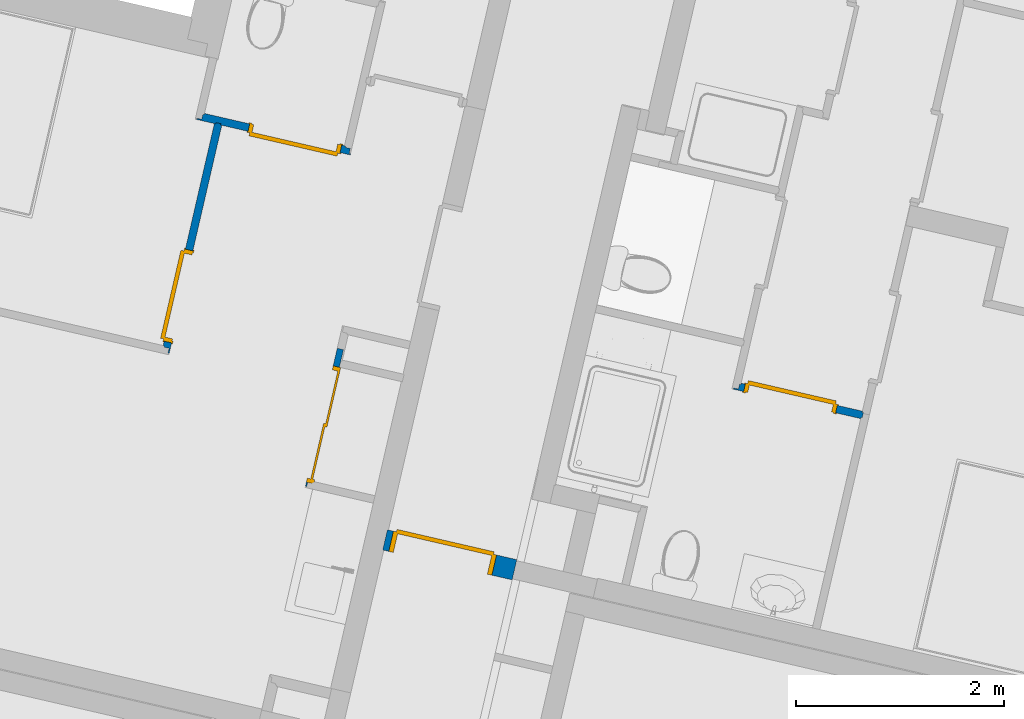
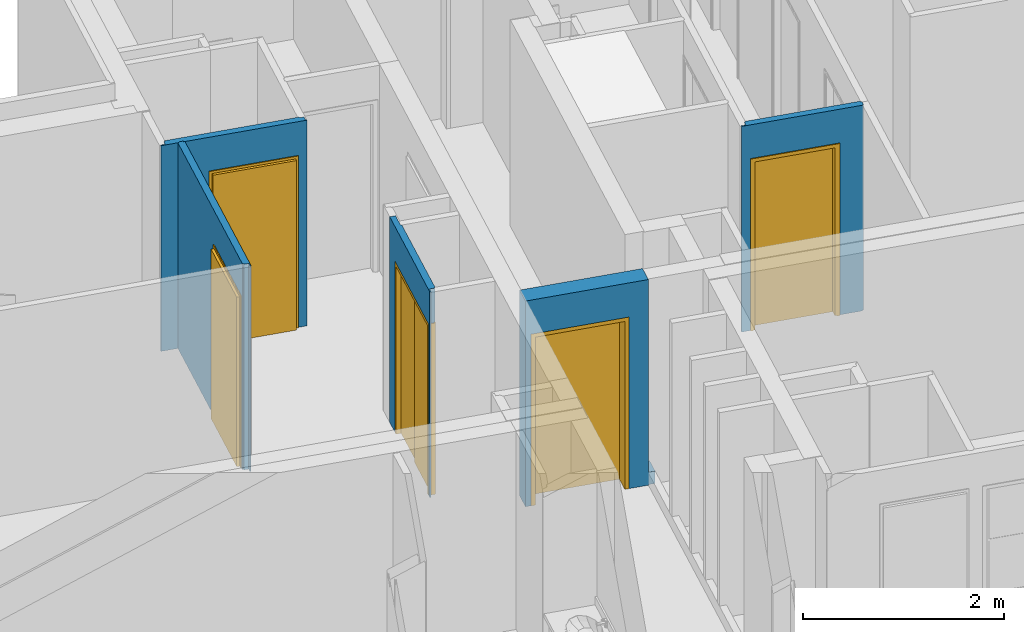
# One storey, part 26 of 91: 5 doors, 5 walls, 5 openings.
"""IFC2X3 building model written with IfcOpenShell, lengths in metres."""

from ifc_helpers import new_model, entity, si_unit, converted_unit, derived_unit, money_unit, direction, frame, origin_with_axes, place, context, subcontext, project, spatial, faceted_brep, source, transform, mapped, material, material_list, type_object, element, fill, save


model = new_model("IFC2X3")

# Units and contexts
model_context = context("Model", 3, precision=1e-05, world=origin_with_axes(), true_north=direction((0.0, 1.0)))
body_context = subcontext(model_context, "Body", "Model", "MODEL_VIEW")
ifc_project = project(units=[si_unit("LENGTHUNIT", "METRE"), si_unit("AREAUNIT", "SQUARE_METRE"), si_unit("VOLUMEUNIT", "CUBIC_METRE"), converted_unit("PLANEANGLEUNIT", "DEGREE", entity("IfcPlaneAngleMeasure", 0.0174532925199), si_unit("PLANEANGLEUNIT", "RADIAN"), dimensions=[0, 0, 0, 0, 0, 0, 0]), si_unit("SOLIDANGLEUNIT", "STERADIAN"), money_unit("EUR"), converted_unit("TIMEUNIT", "Year", entity("IfcTimeMeasure", 31556926.0), si_unit("TIMEUNIT", "SECOND"), dimensions=[0, 0, 1, 0, 0, 0, 0]), si_unit("MASSUNIT", "GRAM", prefix="KILO"), si_unit("THERMODYNAMICTEMPERATUREUNIT", "DEGREE_CELSIUS"), si_unit("LUMINOUSINTENSITYUNIT", "LUMEN"), si_unit("ENERGYUNIT", "JOULE", prefix="MEGA"), derived_unit("THERMALCONDUCTANCEUNIT", [(si_unit("POWERUNIT", "WATT"), 1), (si_unit("LENGTHUNIT", "METRE"), -1), (si_unit("THERMODYNAMICTEMPERATUREUNIT", "KELVIN"), -1)]), derived_unit("SPECIFICHEATCAPACITYUNIT", [(si_unit("ENERGYUNIT", "JOULE"), 1), (si_unit("MASSUNIT", "GRAM", prefix="KILO"), -1), (si_unit("THERMODYNAMICTEMPERATUREUNIT", "KELVIN"), -1)]), derived_unit("MASSDENSITYUNIT", [(si_unit("MASSUNIT", "GRAM", prefix="KILO"), 1), (si_unit("VOLUMEUNIT", "CUBIC_METRE"), -1)])], contexts=[model_context])

# Site, building, storey
site_placement = place(None, origin_with_axes())
site = spatial("IfcSite", under=ifc_project, at=site_placement, Name="Site", CompositionType="ELEMENT")
building_placement = place(site_placement, origin_with_axes())
building = spatial("IfcBuilding", under=site, at=building_placement, Name="Bâtiment", CompositionType="ELEMENT")
storey_placement = place(building_placement, frame((0.0, 0.0, 5.44), z_axis=(0.0, 0.0, 1.0), x_axis=(1.0, 0.0, 0.0)))
storey = spatial("IfcBuildingStorey", under=building, at=storey_placement, Name="R+2", CompositionType="ELEMENT", Elevation=5.44)

# Wall, opening, door
ifc_material_1 = material(Name="Finition int - Plaque de plâtre")
ifc_material_2 = material(Name="Isolation - Laine de roche")
ifc_material_list_1 = material_list([ifc_material_1, ifc_material_2, ifc_material_1])
wall_type_1 = type_object("IfcWallType", Name="3 - Cloison 72mm Placostil 74", PredefinedType="USERDEFINED")
wall_1_placement = place(storey_placement, frame((-11.5279039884, 8.48845740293, 0.0), z_axis=(0.0, 0.0, 1.0), x_axis=(0.97438734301, -0.224876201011, 0.0)))
wall_1 = element("IfcWall", 1, at=wall_1_placement, inside=storey, type_object=wall_type_1, material=ifc_material_list_1, Name="Cloison Placostil 72/48", ObjectType="PARTITIONING", context=body_context, shape_type="Brep", body=[
    faceted_brep([(0.521853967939, 0.074, 2.08), (0.521853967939, 0.074, 0.0), (0.0739999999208, 0.074, 0.0), (0.0739999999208, 0.074, 2.5), (1.47199999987, 0.074, 2.5), (1.47199999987, 0.074, 0.0), (1.43185396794, 0.074, 0.0), (1.43185396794, 0.074, 2.08), (0.521853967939, 0.061, 2.08), (0.521853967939, 0.061, 0.0), (0.0739999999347, 0.061, 0.0), (0.0739999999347, 0.061, 2.5), (1.47199999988, 0.061, 2.5), (1.47199999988, 0.061, 0.0), (1.43185396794, 0.061, 0.0), (1.43185396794, 0.061, 2.08)], [[[0, 1, 2, 3, 4, 5, 6, 7]], [[1, 0, 8, 9]], [[1, 9, 10, 2]], [[2, 10, 11, 3]], [[4, 3, 11, 12]], [[5, 4, 12, 13]], [[14, 6, 5, 13]], [[7, 6, 14, 15]], [[0, 7, 15, 8]], [[15, 14, 13, 12, 11, 10, 9, 8]]]),
    faceted_brep([(0.521853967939, 0.061, 2.08), (0.521853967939, 0.061, 0.0), (0.0609999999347, 0.061, 0.0), (0.0609999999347, 0.061, 2.5), (1.51999999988, 0.061, 2.5), (1.51999999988, 0.061, 0.0), (1.43185396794, 0.061, 0.0), (1.43185396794, 0.061, 2.08), (0.521853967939, 0.013, 2.08), (0.521853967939, 0.013, 0.0), (0.0609999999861, 0.013, 0.0), (0.0609999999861, 0.013, 2.5), (1.5199999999, 0.013, 2.5), (1.5199999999, 0.013, 0.0), (1.43185396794, 0.013, 0.0), (1.43185396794, 0.013, 2.08)], [[[0, 1, 2, 3, 4, 5, 6, 7]], [[1, 0, 8, 9]], [[1, 9, 10, 2]], [[2, 10, 11, 3]], [[4, 3, 11, 12]], [[5, 4, 12, 13]], [[14, 6, 5, 13]], [[7, 6, 14, 15]], [[0, 7, 15, 8]], [[15, 14, 13, 12, 11, 10, 9, 8]]]),
    faceted_brep([(0.202000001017, 0.013, 0.0), (0.202000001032, 0.0, 0.0), (0.013, 0.0, 0.0), (0.0129999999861, 0.013, 0.0), (0.202000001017, 0.013, 2.5), (0.202000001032, 0.0, 2.5), (0.013, 0.0, 2.5), (0.0129999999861, 0.013, 2.5)], [[[0, 1, 2, 3]], [[1, 0, 4, 5]], [[1, 5, 6, 2]], [[7, 3, 2, 6]], [[4, 0, 3, 7]], [[5, 4, 7, 6]]]),
    faceted_brep([(0.521853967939, 0.013, 2.08), (0.521853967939, 0.013, 0.0), (0.250000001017, 0.013, 0.0), (0.250000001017, 0.013, 2.5), (1.5329999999, 0.013, 2.5), (1.5329999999, 0.013, 0.0), (1.43185396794, 0.013, 0.0), (1.43185396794, 0.013, 2.08), (0.521853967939, 0.0, 2.08), (0.521853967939, 0.0, 0.0), (0.250000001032, 0.0, 0.0), (0.250000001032, 0.0, 2.5), (1.53299999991, 0.0, 2.5), (1.53299999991, 0.0, 0.0), (1.43185396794, 0.0, 0.0), (1.43185396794, 0.0, 2.08)], [[[0, 1, 2, 3, 4, 5, 6, 7]], [[1, 0, 8, 9]], [[1, 9, 10, 2]], [[2, 10, 11, 3]], [[4, 3, 11, 12]], [[5, 4, 12, 13]], [[14, 6, 5, 13]], [[7, 6, 14, 15]], [[0, 7, 15, 8]], [[15, 14, 13, 12, 11, 10, 9, 8]]]),
])
opening_1_placement = place(wall_1_placement, frame((0.976853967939, 0.0, 0.0), z_axis=(0.0, 0.0, 1.0), x_axis=(1.0, 0.0, 0.0)))
opening_1 = element("IfcOpeningElement", 2, at=opening_1_placement, cuts=wall_1, Name="Porte 83x204 bois alvéolaire", context=body_context, shape_type="Brep", body=[
    faceted_brep([(-0.455, 0.074, 0.0), (0.455, 0.074, 0.0), (0.455, -0.074, 0.0), (-0.455, -0.074, 0.0), (-0.455, 0.074, 2.08), (0.455, 0.074, 2.08), (0.455, -0.074, 2.08), (-0.455, -0.074, 2.08)], [[[0, 1, 2, 3]], [[0, 4, 5, 1]], [[1, 5, 6, 2]], [[3, 2, 6, 7]], [[4, 0, 3, 7]], [[5, 4, 7, 6]]]),
])
door_style_1 = type_object("IfcDoorStyle", Name="Porte int générique 2019", ConstructionType="NOTDEFINED", OperationType="SINGLE_SWING_RIGHT", ParameterTakesPrecedence=False, Sizeable=False)
shared_shape_1 = source(origin_with_axes(), body_context, "Body", "Brep", [
    faceted_brep([(0.455, 0.0, 0.0), (0.415, 0.0, 0.0), (0.415, 0.0, 2.04), (-0.415, 0.0, 2.04), (-0.415, 0.0, 0.0), (-0.455, 0.0, 0.0), (-0.455, 0.0, 2.08), (0.455, 0.0, 2.08), (0.455, -0.074, 0.0), (0.415, -0.074, 0.0), (0.415, -0.074, 2.04), (-0.415, -0.074, 2.04), (-0.415, -0.074, 0.0), (-0.455, -0.074, 0.0), (-0.455, -0.074, 2.08), (0.455, -0.074, 2.08)], [[[0, 1, 2, 3, 4, 5, 6, 7]], [[0, 8, 9, 1]], [[1, 9, 10, 2]], [[2, 10, 11, 3]], [[3, 11, 12, 4]], [[5, 4, 12, 13]], [[14, 6, 5, 13]], [[15, 7, 6, 14]], [[8, 0, 7, 15]], [[9, 8, 15, 14, 13, 12, 11, 10]]]),
    faceted_brep([(0.465, 0.0, 0.0), (0.465, 0.01, 0.0), (0.465, 0.01, 2.09), (0.465, 0.0, 2.09), (0.435, 0.0, 0.0), (0.435, 0.01, 0.0), (0.435, 0.01, 2.06), (-0.435, 0.01, 2.06), (-0.435, 0.01, 0.0), (-0.465, 0.01, 0.0), (-0.465, 0.01, 2.09), (-0.465, 0.0, 2.09), (-0.465, 0.0, 0.0), (-0.435, 0.0, 0.0), (-0.435, 0.0, 2.06), (0.435, 0.0, 2.06)], [[[0, 1, 2, 3]], [[0, 4, 5, 1]], [[1, 5, 6, 7, 8, 9, 10, 2]], [[3, 2, 10, 11]], [[4, 0, 3, 11, 12, 13, 14, 15]], [[5, 4, 15, 6]], [[6, 15, 14, 7]], [[7, 14, 13, 8]], [[12, 9, 8, 13]], [[11, 10, 9, 12]]]),
    faceted_brep([(0.465, -0.084, 0.0), (0.465, -0.074, 0.0), (0.465, -0.074, 2.09), (0.465, -0.084, 2.09), (0.435, -0.084, 0.0), (0.435, -0.074, 0.0), (0.435, -0.074, 2.06), (-0.435, -0.074, 2.06), (-0.435, -0.074, 0.0), (-0.465, -0.074, 0.0), (-0.465, -0.074, 2.09), (-0.465, -0.084, 2.09), (-0.465, -0.084, 0.0), (-0.435, -0.084, 0.0), (-0.435, -0.084, 2.06), (0.435, -0.084, 2.06)], [[[0, 1, 2, 3]], [[0, 4, 5, 1]], [[1, 5, 6, 7, 8, 9, 10, 2]], [[3, 2, 10, 11]], [[4, 0, 3, 11, 12, 13, 14, 15]], [[5, 4, 15, 6]], [[6, 15, 14, 7]], [[7, 14, 13, 8]], [[12, 9, 8, 13]], [[11, 10, 9, 12]]]),
    faceted_brep([(0.435, 0.04, 0.0), (0.435, 0.0, 0.0), (-0.435, 0.0, 0.0), (-0.435, 0.04, 0.0), (0.435, 0.04, 2.06), (0.435, 0.0, 2.06), (-0.435, 0.0, 2.06), (-0.435, 0.04, 2.06)], [[[0, 1, 2, 3]], [[4, 5, 1, 0]], [[1, 5, 6, 2]], [[3, 2, 6, 7]], [[0, 3, 7, 4]], [[7, 6, 5, 4]]]),
])
door_1_placement = place(opening_1_placement, frame((0.415, 0.0, 0.0), z_axis=(0.0, 0.0, 1.0), x_axis=(-1.0, 0.0, 0.0)))
door_1 = element("IfcDoor", 3, at=door_1_placement, inside=storey, type_object=door_style_1, Name="Porte 83x204 bois alvéolaire", ObjectType="DOOR", OverallHeight=2.04, OverallWidth=0.83, context=body_context, shape_type="MappedRepresentation", body=[
    mapped(shared_shape_1, transform((0.415, 0.0, 0.0))),
])
fill(opening_1, door_1)

wall_2_placement = place(storey_placement, frame((-10.1981851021, 6.11093090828, 0.0), z_axis=(0.0, 0.0, 1.0), x_axis=(-0.22487619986, -0.974387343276, 0.0)))
wall_2 = element("IfcWall", 4, at=wall_2_placement, inside=storey, type_object=wall_type_1, material=ifc_material_list_1, Name="Cloison Placostil 72/48", ObjectType="PARTITIONING", context=body_context, shape_type="Brep", body=[
    faceted_brep([(1.12896282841, 0.0739999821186, 2.08), (-2.88858714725e-10, 0.0739999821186, 2.08), (-2.88859602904e-10, 0.074, 2.5), (1.12896281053, 0.074, 2.5), (-2.88858714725e-10, 0.061, 2.08), (1.12896281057, 0.061, 2.08), (-2.38113972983e-10, 0.061, 2.5), (1.12896281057, 0.061, 2.5)], [[[0, 1, 2, 3]], [[4, 1, 0, 5]], [[1, 4, 6, 2]], [[7, 3, 2, 6]], [[5, 0, 3, 7]], [[4, 5, 7, 6]]]),
    faceted_brep([(-2.88858270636e-10, 0.061, 2.08), (-2.88858270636e-10, 0.0610000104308, 0.0), (-0.174000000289, 0.061, 0.0), (-0.174000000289, 0.061, 2.5), (1.14196281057, 0.061, 2.5), (1.14196281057, 0.061, 2.08), (-2.88858270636e-10, 0.013, 2.08), (-2.88857826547e-10, 0.0130000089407, 0.0), (-0.174000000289, 0.013, 0.0), (-0.174000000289, 0.013, 2.5), (1.14196281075, 0.013, 2.5), (1.14196281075, 0.013, 2.08)], [[[0, 1, 2, 3, 4, 5]], [[1, 0, 6, 7]], [[1, 7, 8, 2]], [[2, 8, 9, 3]], [[10, 4, 3, 9]], [[11, 5, 4, 10]], [[0, 5, 11, 6]], [[6, 11, 10, 9, 8, 7]]]),
    faceted_brep([(1.14999999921, 0.0130000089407, 0.0), (1.14999999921, 0.013, 2.08), (-2.88858270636e-10, 0.013, 2.08), (-2.88857826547e-10, 0.0130000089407, 0.0), (-0.174000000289, 0.013, 0.0), (-0.174000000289, 0.013, 2.5), (1.18996281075, 0.013, 2.5), (1.18996281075, 0.013, 0.0), (1.14999999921, 0.0, 0.0), (1.14999999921, 0.0, 2.08), (-2.88858270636e-10, 0.0, 2.08), (-2.88858270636e-10, 0.0, 0.0), (-0.174000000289, 0.0, 0.0), (-0.174000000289, 0.0, 2.5), (1.1899628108, 0.0, 2.5), (1.1899628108, 0.0, 0.0)], [[[0, 1, 2, 3, 4, 5, 6, 7]], [[1, 0, 8, 9]], [[2, 1, 9, 10]], [[3, 2, 10, 11]], [[3, 11, 12, 4]], [[4, 12, 13, 5]], [[14, 6, 5, 13]], [[7, 6, 14, 15]], [[8, 0, 7, 15]], [[9, 8, 15, 14, 13, 12, 11, 10]]]),
])
opening_2_placement = place(wall_2_placement, frame((0.574999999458, 0.0, 0.0), z_axis=(0.0, 0.0, 1.0), x_axis=(1.0, 0.0, 0.0)))
opening_2 = element("IfcOpeningElement", 5, at=opening_2_placement, cuts=wall_2, Name="Por-002", context=body_context, shape_type="Brep", body=[
    faceted_brep([(-0.574999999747, 0.074, 0.0), (0.574999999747, 0.074, 0.0), (0.574999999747, -0.074, 0.0), (-0.574999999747, -0.074, 0.0), (-0.574999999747, 0.074, 2.08), (0.574999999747, 0.074, 2.08), (0.574999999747, -0.074, 2.08), (-0.574999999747, -0.074, 2.08)], [[[0, 1, 2, 3]], [[0, 4, 5, 1]], [[1, 5, 6, 2]], [[3, 2, 6, 7]], [[4, 0, 3, 7]], [[5, 4, 7, 6]]]),
])
door_style_2 = type_object("IfcDoorStyle", Name="Porte int générique 2019", ConstructionType="NOTDEFINED", OperationType="USERDEFINED", ParameterTakesPrecedence=False, Sizeable=False)
shared_shape_2 = source(origin_with_axes(), body_context, "Body", "Brep", [
    faceted_brep([(-0.574999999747, 0.0, 0.0), (-0.574999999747, 0.0, 2.08), (0.574999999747, 0.0, 2.08), (0.574999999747, 0.0, 0.0), (0.534999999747, 0.0, 0.0), (0.534999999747, 0.0, 2.04), (-0.534999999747, 0.0, 2.04), (-0.534999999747, 0.0, 0.0), (-0.574999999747, -0.074, 0.0), (-0.574999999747, -0.074, 2.08), (0.574999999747, -0.074, 2.08), (0.574999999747, -0.074, 0.0), (0.534999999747, -0.074, 0.0), (0.534999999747, -0.074, 2.04), (-0.534999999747, -0.074, 2.04), (-0.534999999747, -0.074, 0.0)], [[[0, 1, 2, 3, 4, 5, 6, 7]], [[8, 9, 1, 0]], [[9, 10, 2, 1]], [[10, 11, 3, 2]], [[3, 11, 12, 4]], [[5, 4, 12, 13]], [[6, 5, 13, 14]], [[7, 6, 14, 15]], [[0, 7, 15, 8]], [[15, 14, 13, 12, 11, 10, 9, 8]]]),
    faceted_brep([(-0.534999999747, 0.0, 0.0), (0.015, 0.0, 0.0), (0.015, -0.02, 0.0), (-0.534999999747, -0.02, 0.0), (-0.534999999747, 0.0, 2.04), (0.015, 0.0, 2.04), (0.015, -0.02, 2.04), (-0.534999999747, -0.02, 2.04)], [[[0, 1, 2, 3]], [[0, 4, 5, 1]], [[1, 5, 6, 2]], [[3, 2, 6, 7]], [[4, 0, 3, 7]], [[5, 4, 7, 6]]]),
    faceted_brep([(-0.015, -0.02, 0.0), (0.534999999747, -0.02, 0.0), (0.534999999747, -0.04, 0.0), (-0.015, -0.04, 0.0), (-0.015, -0.02, 2.04), (0.534999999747, -0.02, 2.04), (0.534999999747, -0.04, 2.04), (-0.015, -0.04, 2.04)], [[[0, 1, 2, 3]], [[0, 4, 5, 1]], [[1, 5, 6, 2]], [[3, 2, 6, 7]], [[4, 0, 3, 7]], [[5, 4, 7, 6]]]),
])
door_2_placement = place(opening_2_placement, frame((-0.534999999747, 0.0, 0.0), z_axis=(0.0, 0.0, 1.0), x_axis=(1.0, 0.0, 0.0)))
door_2 = element("IfcDoor", 6, at=door_2_placement, inside=storey, type_object=door_style_2, Name="Por-002", ObjectType="DOOR", OverallHeight=2.04, OverallWidth=1.07, context=body_context, shape_type="MappedRepresentation", body=[
    mapped(shared_shape_2, transform((0.534999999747, 0.074, 0.0))),
])
fill(opening_2, door_2)

wall_3_placement = place(storey_placement, frame((-5.09756622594, 5.67452607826, 0.0), z_axis=(0.0, 0.0, 1.0), x_axis=(-0.974387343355, 0.224876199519, 0.0)))
wall_3 = element("IfcWall", 7, at=wall_3_placement, inside=storey, type_object=wall_type_1, material=ifc_material_list_1, Name="Cloison Placostil 72/48", ObjectType="PARTITIONING", context=body_context, shape_type="Brep", body=[
    faceted_brep([(1.15803568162, 0.061, 2.08), (1.15803568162, 0.061, 0.0), (1.26072502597, 0.061, 0.0), (1.26072502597, 0.061, 2.5), (0.0, 0.061, 2.5), (0.0, 0.061, 0.0), (0.248035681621, 0.061, 0.0), (0.248035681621, 0.061, 2.08), (1.15803568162, 0.074, 2.08), (1.15803568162, 0.074, 0.0), (1.26072502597, 0.074, 0.0), (1.26072502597, 0.074, 2.5), (0.0, 0.074, 2.5), (0.0, 0.074, 0.0), (0.248035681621, 0.074, 0.0), (0.248035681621, 0.074, 2.08)], [[[0, 1, 2, 3, 4, 5, 6, 7]], [[1, 0, 8, 9]], [[1, 9, 10, 2]], [[10, 11, 3, 2]], [[11, 12, 4, 3]], [[13, 5, 4, 12]], [[14, 6, 5, 13]], [[7, 6, 14, 15]], [[0, 7, 15, 8]], [[15, 14, 13, 12, 11, 10, 9, 8]]]),
    faceted_brep([(1.15803568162, 0.013, 2.08), (1.15803568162, 0.013, 0.0), (1.21272502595, 0.013, 0.0), (1.21272502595, 0.013, 2.5), (-0.0129999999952, 0.013, 2.5), (-0.0129999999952, 0.013, 0.0), (0.248035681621, 0.013, 0.0), (0.248035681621, 0.013, 2.08), (1.15803568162, 0.061, 2.08), (1.15803568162, 0.061, 0.0), (1.21272502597, 0.061, 0.0), (1.21272502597, 0.061, 2.5), (-0.012999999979, 0.061, 2.5), (-0.012999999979, 0.061, 0.0), (0.248035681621, 0.061, 0.0), (0.248035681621, 0.061, 2.08)], [[[0, 1, 2, 3, 4, 5, 6, 7]], [[1, 0, 8, 9]], [[1, 9, 10, 2]], [[10, 11, 3, 2]], [[11, 12, 4, 3]], [[13, 5, 4, 12]], [[14, 6, 5, 13]], [[7, 6, 14, 15]], [[0, 7, 15, 8]], [[15, 14, 13, 12, 11, 10, 9, 8]]]),
    faceted_brep([(1.15803568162, 0.0, 2.08), (1.15803568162, 0.0, 0.0), (1.19972502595, 0.0, 0.0), (1.19972502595, 0.0, 2.5), (0.0, 0.0, 2.5), (0.0, 0.0, 0.0), (0.248035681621, 0.0, 0.0), (0.248035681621, 0.0, 2.08), (1.15803568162, 0.013, 2.08), (1.15803568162, 0.013, 0.0), (1.19972502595, 0.013, 0.0), (1.19972502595, 0.013, 2.5), (0.0, 0.013, 2.5), (0.0, 0.013, 0.0), (0.248035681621, 0.013, 0.0), (0.248035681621, 0.013, 2.08)], [[[0, 1, 2, 3, 4, 5, 6, 7]], [[1, 0, 8, 9]], [[1, 9, 10, 2]], [[10, 11, 3, 2]], [[11, 12, 4, 3]], [[13, 5, 4, 12]], [[14, 6, 5, 13]], [[7, 6, 14, 15]], [[0, 7, 15, 8]], [[15, 14, 13, 12, 11, 10, 9, 8]]]),
])
opening_3_placement = place(wall_3_placement, frame((0.703035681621, 0.0, 0.0), z_axis=(0.0, 0.0, 1.0), x_axis=(1.0, 0.0, 0.0)))
opening_3 = element("IfcOpeningElement", 8, at=opening_3_placement, cuts=wall_3, Name="Porte 83x204 bois alvéolaire", context=body_context, shape_type="Brep", body=[
    faceted_brep([(0.455, -0.074, 0.0), (-0.455, -0.074, 0.0), (-0.455, 0.074, 0.0), (0.455, 0.074, 0.0), (0.455, -0.074, 2.08), (-0.455, -0.074, 2.08), (-0.455, 0.074, 2.08), (0.455, 0.074, 2.08)], [[[0, 1, 2, 3]], [[0, 4, 5, 1]], [[1, 5, 6, 2]], [[3, 2, 6, 7]], [[4, 0, 3, 7]], [[5, 4, 7, 6]]]),
])
door_style_3 = type_object("IfcDoorStyle", Name="Porte int générique 2019", ConstructionType="NOTDEFINED", OperationType="SINGLE_SWING_LEFT", ParameterTakesPrecedence=False, Sizeable=False)
shared_shape_3 = source(origin_with_axes(), body_context, "Body", "Brep", [
    faceted_brep([(-0.455, 0.0, 0.0), (-0.455, 0.0, 2.08), (0.455, 0.0, 2.08), (0.455, 0.0, 0.0), (0.415, 0.0, 0.0), (0.415, 0.0, 2.04), (-0.415, 0.0, 2.04), (-0.415, 0.0, 0.0), (-0.455, -0.074, 0.0), (-0.455, -0.074, 2.08), (0.455, -0.074, 2.08), (0.455, -0.074, 0.0), (0.415, -0.074, 0.0), (0.415, -0.074, 2.04), (-0.415, -0.074, 2.04), (-0.415, -0.074, 0.0)], [[[0, 1, 2, 3, 4, 5, 6, 7]], [[8, 9, 1, 0]], [[9, 10, 2, 1]], [[10, 11, 3, 2]], [[3, 11, 12, 4]], [[5, 4, 12, 13]], [[6, 5, 13, 14]], [[7, 6, 14, 15]], [[0, 7, 15, 8]], [[15, 14, 13, 12, 11, 10, 9, 8]]]),
    faceted_brep([(-0.465, 0.0, 0.0), (-0.465, 0.0, 2.09), (-0.465, 0.01, 2.09), (-0.465, 0.01, 0.0), (-0.435, 0.0, 0.0), (-0.435, 0.0, 2.06), (0.435, 0.0, 2.06), (0.435, 0.0, 0.0), (0.465, 0.0, 0.0), (0.465, 0.0, 2.09), (0.465, 0.01, 2.09), (0.465, 0.01, 0.0), (0.435, 0.01, 0.0), (0.435, 0.01, 2.06), (-0.435, 0.01, 2.06), (-0.435, 0.01, 0.0)], [[[0, 1, 2, 3]], [[4, 5, 6, 7, 8, 9, 1, 0]], [[1, 9, 10, 2]], [[3, 2, 10, 11, 12, 13, 14, 15]], [[0, 3, 15, 4]], [[15, 14, 5, 4]], [[14, 13, 6, 5]], [[13, 12, 7, 6]], [[8, 7, 12, 11]], [[9, 8, 11, 10]]]),
    faceted_brep([(-0.465, -0.084, 0.0), (-0.465, -0.084, 2.09), (-0.465, -0.074, 2.09), (-0.465, -0.074, 0.0), (-0.435, -0.084, 0.0), (-0.435, -0.084, 2.06), (0.435, -0.084, 2.06), (0.435, -0.084, 0.0), (0.465, -0.084, 0.0), (0.465, -0.084, 2.09), (0.465, -0.074, 2.09), (0.465, -0.074, 0.0), (0.435, -0.074, 0.0), (0.435, -0.074, 2.06), (-0.435, -0.074, 2.06), (-0.435, -0.074, 0.0)], [[[0, 1, 2, 3]], [[4, 5, 6, 7, 8, 9, 1, 0]], [[1, 9, 10, 2]], [[3, 2, 10, 11, 12, 13, 14, 15]], [[0, 3, 15, 4]], [[15, 14, 5, 4]], [[14, 13, 6, 5]], [[13, 12, 7, 6]], [[8, 7, 12, 11]], [[9, 8, 11, 10]]]),
    faceted_brep([(-0.435, 0.04, 0.0), (0.435, 0.04, 0.0), (0.435, 0.0, 0.0), (-0.435, 0.0, 0.0), (-0.435, 0.04, 2.06), (0.435, 0.04, 2.06), (0.435, 0.0, 2.06), (-0.435, 0.0, 2.06)], [[[0, 1, 2, 3]], [[0, 4, 5, 1]], [[1, 5, 6, 2]], [[3, 2, 6, 7]], [[4, 0, 3, 7]], [[5, 4, 7, 6]]]),
])
door_3_placement = place(opening_3_placement, frame((0.415, 0.0, 0.0), z_axis=(0.0, 0.0, 1.0), x_axis=(-1.0, 0.0, 0.0)))
door_3 = element("IfcDoor", 9, at=door_3_placement, inside=storey, type_object=door_style_3, Name="Porte 83x204 bois alvéolaire", ObjectType="DOOR", OverallHeight=2.04, OverallWidth=0.83, context=body_context, shape_type="MappedRepresentation", body=[
    mapped(shared_shape_3, transform((0.415, 0.0, 0.0))),
])
fill(opening_3, door_3)

wall_4_placement = place(storey_placement, frame((-11.781974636, 6.21803828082, 0.0), z_axis=(0.0, 0.0, 1.0), x_axis=(0.224876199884, 0.974387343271, 0.0)))
wall_4 = element("IfcWall", 10, at=wall_4_placement, inside=storey, type_object=wall_type_1, material=ifc_material_list_1, Name="Cloison Placostil 72/48", ObjectType="PARTITIONING", context=body_context, shape_type="Brep", body=[
    faceted_brep([(0.117208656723, 0.061, 0.0), (0.117208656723, 0.061, 2.08), (1.02720865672, 0.061, 2.08), (1.02720865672, 0.061, 0.0), (2.26940209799, 0.061, 0.0), (2.26940209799, 0.061, 2.5), (0.0739999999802, 0.061, 2.5), (0.0739999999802, 0.061, 0.0), (0.117208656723, 0.074, 0.0), (0.117208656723, 0.074, 2.08), (1.02720865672, 0.074, 2.08), (1.02720865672, 0.074, 0.0), (2.26940209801, 0.074, 0.0), (2.26940209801, 0.074, 2.5), (0.073999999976, 0.074, 2.5), (0.073999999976, 0.074, 0.0)], [[[0, 1, 2, 3, 4, 5, 6, 7]], [[1, 0, 8, 9]], [[2, 1, 9, 10]], [[3, 2, 10, 11]], [[3, 11, 12, 4]], [[12, 13, 5, 4]], [[13, 14, 6, 5]], [[15, 7, 6, 14]], [[8, 0, 7, 15]], [[9, 8, 15, 14, 13, 12, 11, 10]]]),
    faceted_brep([(0.117208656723, 0.013, 0.0), (0.117208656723, 0.013, 2.08), (1.02720865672, 0.013, 2.08), (1.02720865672, 0.013, 0.0), (2.28240209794, 0.013, 0.0), (2.28240209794, 0.013, 2.5), (0.0609999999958, 0.013, 2.5), (0.0609999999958, 0.013, 0.0), (0.117208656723, 0.061, 0.0), (0.117208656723, 0.061, 2.08), (1.02720865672, 0.061, 2.08), (1.02720865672, 0.061, 0.0), (2.28240209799, 0.061, 0.0), (2.28240209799, 0.061, 2.5), (0.0609999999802, 0.061, 2.5), (0.0609999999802, 0.061, 0.0)], [[[0, 1, 2, 3, 4, 5, 6, 7]], [[1, 0, 8, 9]], [[2, 1, 9, 10]], [[3, 2, 10, 11]], [[3, 11, 12, 4]], [[12, 13, 5, 4]], [[13, 14, 6, 5]], [[15, 7, 6, 14]], [[8, 0, 7, 15]], [[9, 8, 15, 14, 13, 12, 11, 10]]]),
    faceted_brep([(0.117208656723, 0.0, 0.0), (0.117208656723, 0.0, 2.08), (1.02720865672, 0.0, 2.08), (1.02720865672, 0.0, 0.0), (2.26940209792, 0.0, 0.0), (2.26940209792, 0.0, 2.5), (0.013, 0.0, 2.5), (0.013, 0.0, 0.0), (0.117208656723, 0.013, 0.0), (0.117208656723, 0.013, 2.08), (1.02720865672, 0.013, 2.08), (1.02720865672, 0.013, 0.0), (2.26940209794, 0.013, 0.0), (2.26940209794, 0.013, 2.5), (0.0129999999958, 0.013, 2.5), (0.0129999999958, 0.013, 0.0)], [[[0, 1, 2, 3, 4, 5, 6, 7]], [[1, 0, 8, 9]], [[2, 1, 9, 10]], [[3, 2, 10, 11]], [[3, 11, 12, 4]], [[12, 13, 5, 4]], [[13, 14, 6, 5]], [[15, 7, 6, 14]], [[8, 0, 7, 15]], [[9, 8, 15, 14, 13, 12, 11, 10]]]),
])
opening_4_placement = place(wall_4_placement, frame((0.572208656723, 0.0, 0.0), z_axis=(0.0, 0.0, 1.0), x_axis=(1.0, 0.0, 0.0)))
opening_4 = element("IfcOpeningElement", 11, at=opening_4_placement, cuts=wall_4, Name="Porte 83x204 bois alvéolaire", context=body_context, shape_type="Brep", body=[
    faceted_brep([(-0.455, 0.074, 0.0), (0.455, 0.074, 0.0), (0.455, -0.074, 0.0), (-0.455, -0.074, 0.0), (-0.455, 0.074, 2.08), (0.455, 0.074, 2.08), (0.455, -0.074, 2.08), (-0.455, -0.074, 2.08)], [[[0, 1, 2, 3]], [[0, 4, 5, 1]], [[1, 5, 6, 2]], [[3, 2, 6, 7]], [[4, 0, 3, 7]], [[5, 4, 7, 6]]]),
])
shared_shape_4 = source(origin_with_axes(), body_context, "Body", "Brep", [
    faceted_brep([(-0.455, -0.006, 0.0), (-0.455, -0.006, 2.08), (0.455, -0.006, 2.08), (0.455, -0.006, 0.0), (0.415, -0.006, 0.0), (0.415, -0.006, 2.04), (-0.415, -0.006, 2.04), (-0.415, -0.006, 0.0), (-0.455, -0.08, 0.0), (-0.455, -0.08, 2.08), (0.455, -0.08, 2.08), (0.455, -0.08, 0.0), (0.415, -0.08, 0.0), (0.415, -0.08, 2.04), (-0.415, -0.08, 2.04), (-0.415, -0.08, 0.0)], [[[0, 1, 2, 3, 4, 5, 6, 7]], [[8, 9, 1, 0]], [[9, 10, 2, 1]], [[10, 11, 3, 2]], [[3, 11, 12, 4]], [[5, 4, 12, 13]], [[6, 5, 13, 14]], [[7, 6, 14, 15]], [[0, 7, 15, 8]], [[15, 14, 13, 12, 11, 10, 9, 8]]]),
    faceted_brep([(-0.465, -0.006, 0.0), (-0.465, -0.006, 2.09), (-0.465, 0.004, 2.09), (-0.465, 0.004, 0.0), (-0.435, -0.006, 0.0), (-0.435, -0.006, 2.06), (0.435, -0.006, 2.06), (0.435, -0.006, 0.0), (0.465, -0.006, 0.0), (0.465, -0.006, 2.09), (0.465, 0.004, 2.09), (0.465, 0.004, 0.0), (0.435, 0.004, 0.0), (0.435, 0.004, 2.06), (-0.435, 0.004, 2.06), (-0.435, 0.004, 0.0)], [[[0, 1, 2, 3]], [[4, 5, 6, 7, 8, 9, 1, 0]], [[1, 9, 10, 2]], [[3, 2, 10, 11, 12, 13, 14, 15]], [[0, 3, 15, 4]], [[15, 14, 5, 4]], [[14, 13, 6, 5]], [[13, 12, 7, 6]], [[8, 7, 12, 11]], [[9, 8, 11, 10]]]),
    faceted_brep([(-0.465, -0.09, 0.0), (-0.465, -0.09, 2.09), (-0.465, -0.08, 2.09), (-0.465, -0.08, 0.0), (-0.435, -0.09, 0.0), (-0.435, -0.09, 2.06), (0.435, -0.09, 2.06), (0.435, -0.09, 0.0), (0.465, -0.09, 0.0), (0.465, -0.09, 2.09), (0.465, -0.08, 2.09), (0.465, -0.08, 0.0), (0.435, -0.08, 0.0), (0.435, -0.08, 2.06), (-0.435, -0.08, 2.06), (-0.435, -0.08, 0.0)], [[[0, 1, 2, 3]], [[4, 5, 6, 7, 8, 9, 1, 0]], [[1, 9, 10, 2]], [[3, 2, 10, 11, 12, 13, 14, 15]], [[0, 3, 15, 4]], [[15, 14, 5, 4]], [[14, 13, 6, 5]], [[13, 12, 7, 6]], [[8, 7, 12, 11]], [[9, 8, 11, 10]]]),
    faceted_brep([(-0.435, 0.034, 0.0), (0.435, 0.034, 0.0), (0.435, -0.006, 0.0), (-0.435, -0.006, 0.0), (-0.435, 0.034, 2.06), (0.435, 0.034, 2.06), (0.435, -0.006, 2.06), (-0.435, -0.006, 2.06)], [[[0, 1, 2, 3]], [[0, 4, 5, 1]], [[1, 5, 6, 2]], [[3, 2, 6, 7]], [[4, 0, 3, 7]], [[5, 4, 7, 6]]]),
])
door_4_placement = place(opening_4_placement, frame((-0.415, 0.0, 0.0), z_axis=(0.0, 0.0, 1.0), x_axis=(1.0, 0.0, 0.0)))
door_4 = element("IfcDoor", 12, at=door_4_placement, inside=storey, type_object=door_style_3, Name="Porte 83x204 bois alvéolaire", ObjectType="DOOR", OverallHeight=2.04, OverallWidth=0.83, context=body_context, shape_type="MappedRepresentation", body=[
    mapped(shared_shape_4, transform((0.415, 0.08, 0.0))),
])
fill(opening_4, door_4)

ifc_material_3 = material(Name="Finition int - Enduit plâtre")
ifc_material_4 = material(Name="Béton")
ifc_material_list_2 = material_list([ifc_material_3, ifc_material_4, ifc_material_3])
wall_type_2 = type_object("IfcWallType", Name="2 - Murs Béton 18 + Enduit 2 Faces 200", PredefinedType="USERDEFINED")
wall_5_placement = place(storey_placement, frame((-8.47351669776, 4.04803831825, 0.0), z_axis=(0.0, 0.0, 1.0), x_axis=(-0.974387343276, 0.224876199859, 0.0)))
wall_5 = element("IfcWall", 13, at=wall_5_placement, inside=storey, type_object=wall_type_2, material=ifc_material_list_2, Name="M_Ext-008", ObjectType="SOLIDWALL", context=body_context, shape_type="Brep", body=[
    faceted_brep([(1.22039556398, -0.01, 2.085), (1.22039556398, -0.01, 0.0), (1.28039051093, -0.01, 0.0), (1.28039051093, -0.01, 2.5), (0.0, -0.01, 2.5), (0.0, -0.01, 0.15), (0.0, -0.01, 0.0), (0.20039556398, -0.01, 0.0), (0.20039556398, -0.01, 2.085), (1.22039556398, 0.0, 2.085), (1.22039556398, 0.0, 0.0), (1.28039051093, 0.0, 0.0), (1.28039051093, 0.0, 2.5), (0.0, -8.19564593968e-09, 2.5), (0.0, -8.19564593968e-09, 0.15), (0.0, 0.0, 0.0), (0.20039556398, 0.0, 0.0), (0.20039556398, 0.0, 2.085)], [[[0, 1, 2, 3, 4, 5, 6, 7, 8]], [[1, 0, 9, 10]], [[1, 10, 11, 2]], [[11, 12, 3, 2]], [[12, 13, 4, 3]], [[14, 5, 4, 13]], [[6, 5, 14, 15]], [[16, 7, 6, 15]], [[8, 7, 16, 17]], [[0, 8, 17, 9]], [[17, 16, 15, 14, 13, 12, 11, 10, 9]]]),
    faceted_brep([(1.22039556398, -0.19, 2.085), (1.22039556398, -0.19, 0.0), (1.28039051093, -0.19, 0.0), (1.28039051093, -0.19, 2.5), (0.0, -0.19, 2.5), (0.0, -0.19, 0.15), (-0.0739999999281, -0.19, 0.15), (-0.0739999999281, -0.19, 0.0), (0.20039556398, -0.19, 0.0), (0.20039556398, -0.19, 2.085), (1.22039556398, -0.01, 2.085), (1.22039556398, -0.01, 0.0), (1.28039051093, -0.01, 0.0), (1.28039051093, -0.01, 2.5), (0.0, -0.01, 2.5), (0.0, -0.01, 0.15), (-0.0739999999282, -0.01, 0.15), (-0.0739999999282, -0.01, 0.0), (0.20039556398, -0.01, 0.0), (0.20039556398, -0.01, 2.085)], [[[0, 1, 2, 3, 4, 5, 6, 7, 8, 9]], [[1, 0, 10, 11]], [[1, 11, 12, 2]], [[13, 3, 2, 12]], [[14, 4, 3, 13]], [[5, 4, 14, 15]], [[16, 6, 5, 15]], [[7, 6, 16, 17]], [[18, 8, 7, 17]], [[9, 8, 18, 19]], [[0, 9, 19, 10]], [[19, 18, 17, 16, 15, 14, 13, 12, 11, 10]]]),
    faceted_brep([(1.22039556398, -0.2, 2.085), (1.22039556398, -0.2, 0.0), (1.28039051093, -0.2, 0.0), (1.28039051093, -0.2, 2.5), (0.0, -0.2, 2.5), (0.0, -0.2, 0.15), (-0.0739999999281, -0.2, 0.15), (-0.0739999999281, -0.2, 0.0), (0.20039556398, -0.2, 0.0), (0.20039556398, -0.2, 2.085), (1.22039556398, -0.19, 2.085), (1.22039556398, -0.19, 0.0), (1.28039051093, -0.19, 0.0), (1.28039051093, -0.19, 2.5), (0.0, -0.19, 2.5), (0.0, -0.19, 0.15), (-0.0739999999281, -0.19, 0.15), (-0.0739999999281, -0.19, 0.0), (0.20039556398, -0.19, 0.0), (0.20039556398, -0.19, 2.085)], [[[0, 1, 2, 3, 4, 5, 6, 7, 8, 9]], [[1, 0, 10, 11]], [[1, 11, 12, 2]], [[12, 13, 3, 2]], [[13, 14, 4, 3]], [[15, 5, 4, 14]], [[15, 16, 6, 5]], [[17, 7, 6, 16]], [[18, 8, 7, 17]], [[9, 8, 18, 19]], [[0, 9, 19, 10]], [[19, 18, 17, 16, 15, 14, 13, 12, 11, 10]]]),
])
opening_5_placement = place(wall_5_placement, frame((0.71039556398, 0.0, 0.0), z_axis=(0.0, 0.0, 1.0), x_axis=(1.0, 0.0, 0.0)))
opening_5 = element("IfcOpeningElement", 14, at=opening_5_placement, cuts=wall_5, Name="Porte 93x204 bois CF", context=body_context, shape_type="Brep", body=[
    faceted_brep([(0.51, -0.2, 0.0), (-0.51, -0.2, 0.0), (-0.51, 0.2, 0.0), (0.51, 0.2, 0.0), (0.51, -0.2, 2.085), (-0.51, -0.2, 2.085), (-0.51, 0.2, 2.085), (0.51, 0.2, 2.085)], [[[0, 1, 2, 3]], [[0, 4, 5, 1]], [[1, 5, 6, 2]], [[3, 2, 6, 7]], [[4, 0, 3, 7]], [[5, 4, 7, 6]]]),
])
door_style_4 = type_object("IfcDoorStyle", Name="Porte int générique 2019", ConstructionType="NOTDEFINED", OperationType="SINGLE_SWING_LEFT", ParameterTakesPrecedence=False, Sizeable=False)
shared_shape_5 = source(origin_with_axes(), body_context, "Body", "Brep", [
    faceted_brep([(-0.51, 0.0, 0.0), (-0.51, 0.0, 2.085), (0.51, 0.0, 2.085), (0.51, 0.0, 0.0), (0.48, 0.0, 0.0), (0.48, 0.0, 2.055), (-0.48, 0.0, 2.055), (-0.48, 0.0, 0.0), (-0.51, -0.2, 0.0), (-0.51, -0.2, 2.085), (0.51, -0.2, 2.085), (0.51, -0.2, 0.0), (0.465, -0.2, 0.0), (0.465, -0.015, 0.0), (0.48, -0.015, 0.0), (0.48, -0.015, 2.055), (-0.48, -0.015, 2.055), (-0.48, -0.015, 0.0), (-0.465, -0.015, 0.0), (-0.465, -0.2, 0.0), (-0.465, -0.2, 2.04), (0.465, -0.2, 2.04), (0.465, -0.015, 2.04), (-0.465, -0.015, 2.04)], [[[0, 1, 2, 3, 4, 5, 6, 7]], [[8, 9, 1, 0]], [[9, 10, 2, 1]], [[10, 11, 3, 2]], [[3, 11, 12, 13, 14, 4]], [[5, 4, 14, 15]], [[6, 5, 15, 16]], [[7, 6, 16, 17]], [[0, 7, 17, 18, 19, 8]], [[19, 20, 21, 12, 11, 10, 9, 8]], [[22, 13, 12, 21]], [[17, 16, 15, 14, 13, 22, 23, 18]], [[18, 23, 20, 19]], [[23, 22, 21, 20]]]),
    faceted_brep([(-0.48, 0.025, 0.0), (0.48, 0.025, 0.0), (0.48, -0.015, 0.0), (-0.48, -0.015, 0.0), (-0.48, 0.025, 2.055), (0.48, 0.025, 2.055), (0.48, -0.015, 2.055), (-0.48, -0.015, 2.055)], [[[0, 1, 2, 3]], [[0, 4, 5, 1]], [[1, 5, 6, 2]], [[3, 2, 6, 7]], [[4, 0, 3, 7]], [[5, 4, 7, 6]]]),
])
door_5_placement = place(opening_5_placement, frame((0.465, 0.0, 0.0), z_axis=(0.0, 0.0, 1.0), x_axis=(-1.0, 0.0, 0.0)))
door_5 = element("IfcDoor", 15, at=door_5_placement, inside=storey, type_object=door_style_4, Name="Porte 93x204 bois CF", ObjectType="DOOR", OverallHeight=2.04, OverallWidth=0.93, context=body_context, shape_type="MappedRepresentation", body=[
    mapped(shared_shape_5, transform((0.465, 0.2, 0.0))),
])
fill(opening_5, door_5)

save(model, "model.ifc")
